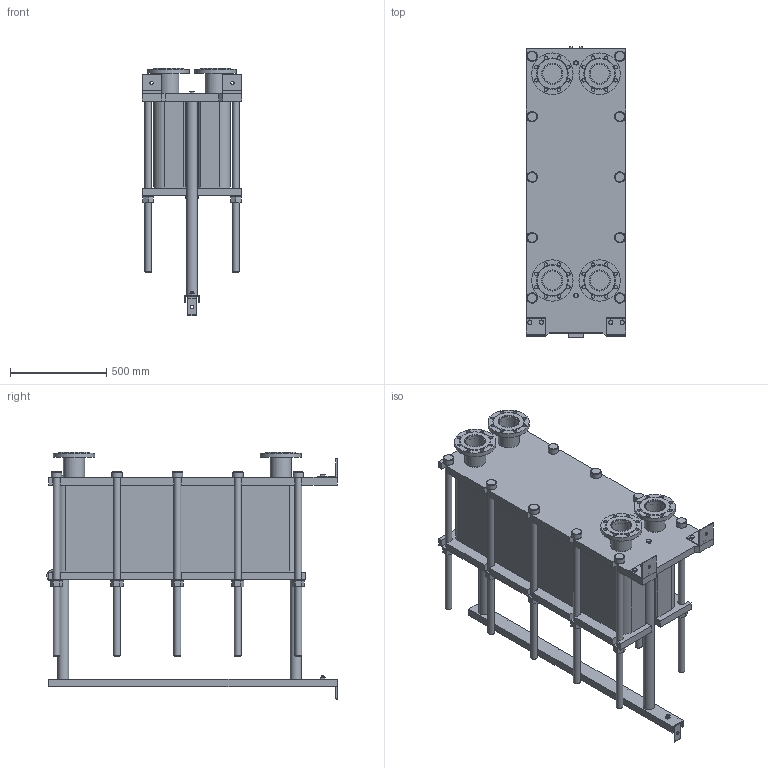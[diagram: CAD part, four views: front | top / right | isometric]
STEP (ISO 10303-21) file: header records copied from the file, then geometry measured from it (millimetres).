
FILE_DESCRIPTION(/* description */ (''),/* implementation_level */ '2;1');
FILE_NAME(/* name */ 'C:\Users\zhuro\Desktop\ENCO\TO\ЭН-04\ЭН-0,5-04-131-1.stp',/* time_stamp */ '2022-06-06T10:57:09+03:00',/* author */ ('zhuro'),/* organization */ (''),/* preprocessor_version */ 'ST-DEVELOPER v18.1',/* originating_system */ 'Autodesk Inventor 2022',/* authorisation */ '');
FILE_SCHEMA (('AUTOMOTIVE_DESIGN { 1 0 10303 214 3 1 1 }'));
Length unit declared in the file: millimetre
Products named in the file (1): ЭН-0,5-04-131-1
Bounding box: 520 x 1510 x 1285.5 mm (x, y, z)
Volume: 298739383.2 mm3; surface area: 9036954.9 mm2
Topology: 45 solids, 45 shells, 668 faces, 1611 edges, 1048 vertices
Faces by surface type: plane 457, cylinder 166, cone 39, torus 6
Full cylindrical faces by diameter (mm): 8 x4, 10 x2, 16 x8, 18 x35, 36 x25, 40 x2, 42 x1, 45 x4, 54 x10, 57 x2, 60 x10, 68 x2, 100 x4, 110 x8, 215 x4
Entity records: 23607 total; most frequent: CARTESIAN_POINT 7348, DIRECTION 3371, ORIENTED_EDGE 3142, EDGE_CURVE 1571, AXIS2_PLACEMENT_3D 1199, VERTEX_POINT 1044, LINE 973, VECTOR 973
